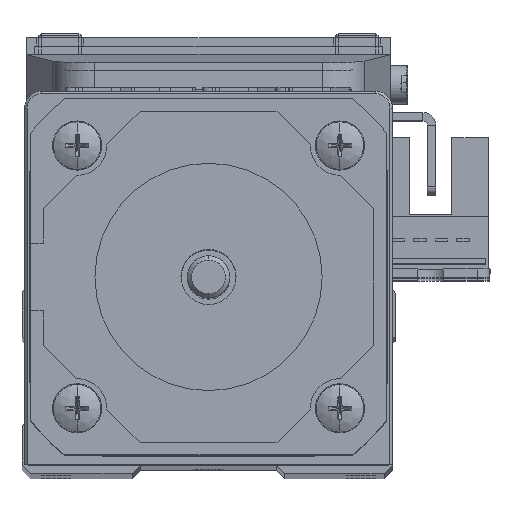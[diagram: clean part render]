
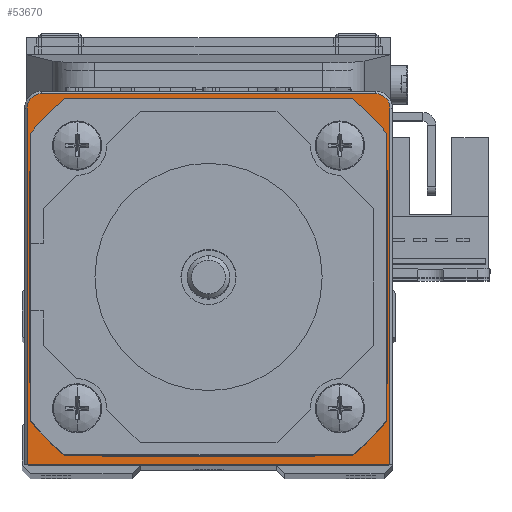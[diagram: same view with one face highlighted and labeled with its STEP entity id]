
A CAD part, top view. The second image highlights one B-rep face of the part: STEP entity #53670.
In plain terms, the highlighted planar face has unit normal (0, 0, 1).
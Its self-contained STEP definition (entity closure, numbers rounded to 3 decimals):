
#1272 = CARTESIAN_POINT ( 'NONE',  ( -19.7, 21.7, 26.5 ) ) ;
#1404 = CARTESIAN_POINT ( 'NONE',  ( 21.4, 20., 26.5 ) ) ;
#2424 = ORIENTED_EDGE ( 'NONE', *, *, #40926, .T. ) ;
#3035 = VERTEX_POINT ( 'NONE', #10419 ) ;
#8205 = AXIS2_PLACEMENT_3D ( 'NONE', #16635, #39900, #63090 ) ;
#10419 = CARTESIAN_POINT ( 'NONE',  ( 19.7, 21.7, 26.5 ) ) ;
#13085 = CARTESIAN_POINT ( 'NONE',  ( -21.7, -22., 26.5 ) ) ;
#13729 = EDGE_LOOP ( 'NONE', ( #21634, #2424, #64896, #66102, #30794, #70949 ) ) ;
#13851 = DIRECTION ( 'NONE',  ( 0., 0., 1. ) ) ;
#14286 = CARTESIAN_POINT ( 'NONE',  ( -21.4, -22., 26.5 ) ) ;
#15183 = DIRECTION ( 'NONE',  ( 0., -1., 0. ) ) ;
#15546 = EDGE_CURVE ( 'NONE', #24297, #3035, #64379, .T. ) ;
#15850 = CARTESIAN_POINT ( 'NONE',  ( 21.4, 20., 26.5 ) ) ;
#16495 = AXIS2_PLACEMENT_3D ( 'NONE', #17776, #41037, #64250 ) ;
#16635 = CARTESIAN_POINT ( 'NONE',  ( 0., 0., 26.5 ) ) ;
#17776 = CARTESIAN_POINT ( 'NONE',  ( 0., 0., 26.5 ) ) ;
#18833 = VERTEX_POINT ( 'NONE', #14286 ) ;
#19651 = DIRECTION ( 'NONE',  ( 0., 0., 1. ) ) ;
#19687 = VECTOR ( 'NONE', #74464, 1000. ) ;
#21634 = ORIENTED_EDGE ( 'NONE', *, *, #54226, .T. ) ;
#21879 = EDGE_CURVE ( 'NONE', #3035, #53010, #28007, .T. ) ;
#23483 = FACE_OUTER_BOUND ( 'NONE', #13729, .T. ) ;
#24297 = VERTEX_POINT ( 'NONE', #15850 ) ;
#24627 = DIRECTION ( 'NONE',  ( 0., 1., 0. ) ) ;
#26393 = CIRCLE ( 'NONE', #68953, 1.7 ) ;
#28007 = LINE ( 'NONE', #51240, #19687 ) ;
#28201 = VECTOR ( 'NONE', #24627, 1000. ) ;
#28809 = CARTESIAN_POINT ( 'NONE',  ( 0., 0., 26.5 ) ) ;
#28908 = AXIS2_PLACEMENT_3D ( 'NONE', #28809, #52044, #75264 ) ;
#30794 = ORIENTED_EDGE ( 'NONE', *, *, #66314, .T. ) ;
#31560 = AXIS2_PLACEMENT_3D ( 'NONE', #66053, #13851, #37105 ) ;
#33324 = VERTEX_POINT ( 'NONE', #53096 ) ;
#36354 = DIRECTION ( 'NONE',  ( 1., 0., 0. ) ) ;
#37105 = DIRECTION ( 'NONE',  ( 1., 0., 0. ) ) ;
#39900 = DIRECTION ( 'NONE',  ( 0., 0., 1. ) ) ;
#40926 = EDGE_CURVE ( 'NONE', #33324, #24297, #53587, .T. ) ;
#41037 = DIRECTION ( 'NONE',  ( 0., 0., 1. ) ) ;
#41087 = CIRCLE ( 'NONE', #8205, 10. ) ;
#42921 = DIRECTION ( 'NONE',  ( 1., 0., 0. ) ) ;
#42953 = ORIENTED_EDGE ( 'NONE', *, *, #65632, .F. ) ;
#43362 = EDGE_LOOP ( 'NONE', ( #53622, #42953 ) ) ;
#44150 = LINE ( 'NONE', #67364, #56926 ) ;
#46739 = FACE_BOUND ( 'NONE', #43362, .T. ) ;
#49269 = CARTESIAN_POINT ( 'NONE',  ( -10., 0., 26.5 ) ) ;
#51240 = CARTESIAN_POINT ( 'NONE',  ( -19.7, 21.7, 26.5 ) ) ;
#51842 = VERTEX_POINT ( 'NONE', #72842 ) ;
#52044 = DIRECTION ( 'NONE',  ( 0., 0., 1. ) ) ;
#53010 = VERTEX_POINT ( 'NONE', #1272 ) ;
#53096 = CARTESIAN_POINT ( 'NONE',  ( 21.4, -22., 26.5 ) ) ;
#53587 = LINE ( 'NONE', #1404, #28201 ) ;
#53622 = ORIENTED_EDGE ( 'NONE', *, *, #72443, .F. ) ;
#53670 = ADVANCED_FACE ( 'NONE', ( #23483, #46739 ), #69940, .T. ) ;
#54226 = EDGE_CURVE ( 'NONE', #18833, #33324, #65274, .T. ) ;
#56926 = VECTOR ( 'NONE', #15183, 1000. ) ;
#58324 = VERTEX_POINT ( 'NONE', #63727 ) ;
#61559 = VERTEX_POINT ( 'NONE', #49269 ) ;
#61722 = CIRCLE ( 'NONE', #28908, 10. ) ;
#63090 = DIRECTION ( 'NONE',  ( 1., 0., 0. ) ) ;
#63727 = CARTESIAN_POINT ( 'NONE',  ( 10., 0., 26.5 ) ) ;
#64250 = DIRECTION ( 'NONE',  ( 1., 0., 0. ) ) ;
#64379 = CIRCLE ( 'NONE', #31560, 1.7 ) ;
#64896 = ORIENTED_EDGE ( 'NONE', *, *, #15546, .T. ) ;
#65274 = LINE ( 'NONE', #13085, #66470 ) ;
#65632 = EDGE_CURVE ( 'NONE', #58324, #61559, #61722, .T. ) ;
#66053 = CARTESIAN_POINT ( 'NONE',  ( 19.7, 20., 26.5 ) ) ;
#66102 = ORIENTED_EDGE ( 'NONE', *, *, #21879, .T. ) ;
#66314 = EDGE_CURVE ( 'NONE', #53010, #51842, #26393, .T. ) ;
#66470 = VECTOR ( 'NONE', #36354, 1000. ) ;
#67287 = EDGE_CURVE ( 'NONE', #51842, #18833, #44150, .T. ) ;
#67364 = CARTESIAN_POINT ( 'NONE',  ( -21.4, -22., 26.5 ) ) ;
#68953 = AXIS2_PLACEMENT_3D ( 'NONE', #71845, #19651, #42921 ) ;
#69940 = PLANE ( 'NONE',  #16495 ) ;
#70949 = ORIENTED_EDGE ( 'NONE', *, *, #67287, .T. ) ;
#71845 = CARTESIAN_POINT ( 'NONE',  ( -19.7, 20., 26.5 ) ) ;
#72443 = EDGE_CURVE ( 'NONE', #61559, #58324, #41087, .T. ) ;
#72842 = CARTESIAN_POINT ( 'NONE',  ( -21.4, 20., 26.5 ) ) ;
#74464 = DIRECTION ( 'NONE',  ( -1., 0., 0. ) ) ;
#75264 = DIRECTION ( 'NONE',  ( 1., 0., 0. ) ) ;
